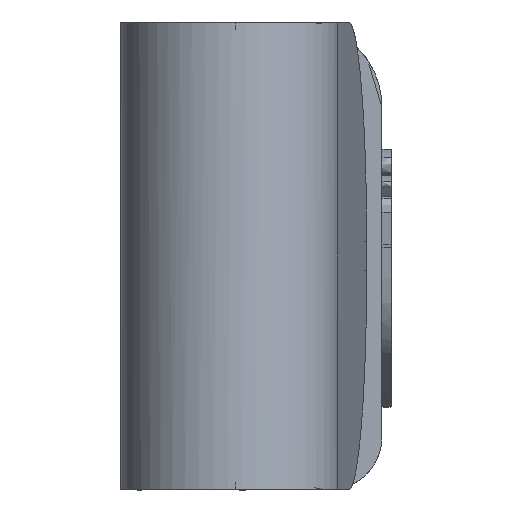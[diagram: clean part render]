
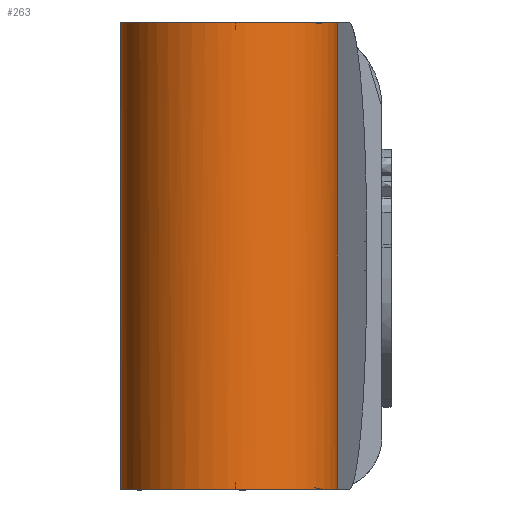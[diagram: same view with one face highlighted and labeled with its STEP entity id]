
A CAD part, left-side view. The second image highlights one B-rep face of the part: STEP entity #263.
In plain terms, the highlighted free-form (B-spline) face has degree [2, 1] with [9, 2] control points.
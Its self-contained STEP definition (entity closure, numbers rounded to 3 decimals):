
#263=ADVANCED_FACE('',(#834),#9871,.T.);
#834=FACE_OUTER_BOUND('',#1411,.T.);
#1411=EDGE_LOOP('',(#3096,#3097,#3098,#3099));
#3096=ORIENTED_EDGE('',*,*,#5794,.T.);
#3097=ORIENTED_EDGE('',*,*,#5620,.T.);
#3098=ORIENTED_EDGE('',*,*,#5795,.F.);
#3099=ORIENTED_EDGE('',*,*,#5290,.T.);
#5290=EDGE_CURVE('',#8639,#8637,#6902,.T.);
#5620=EDGE_CURVE('',#8887,#8888,#7202,.T.);
#5794=EDGE_CURVE('',#8637,#8887,#7295,.T.);
#5795=EDGE_CURVE('',#8639,#8888,#7296,.T.);
#6902=B_SPLINE_CURVE_WITH_KNOTS('',3,(#25502,#25503,#25504,#25505,#25506,
#25507,#25508,#25509,#25510,#25511,#25512,#25513,#25514,#25515,#25516,#25517),
 .UNSPECIFIED.,.F.,.F.,(4,2,2,2,2,2,2,4),(-0.012,-0.011,
-0.009,-0.007,-0.005,-0.004,
-0.002,0.),.UNSPECIFIED.);
#7202=B_SPLINE_CURVE_WITH_KNOTS('',3,(#26696,#26697,#26698,#26699,#26700,
#26701,#26702,#26703,#26704,#26705,#26706,#26707,#26708,#26709,#26710,#26711),
 .UNSPECIFIED.,.F.,.F.,(4,2,2,2,2,2,2,4),(-0.012,-0.01,
-0.009,-0.007,-0.005,-0.003,
-0.001,0.),.UNSPECIFIED.);
#7295=B_SPLINE_CURVE_WITH_KNOTS('',1,(#27816,#27817),.UNSPECIFIED.,.F.,
 .F.,(2,2),(0.,0.017),.UNSPECIFIED.);
#7296=B_SPLINE_CURVE_WITH_KNOTS('',1,(#27818,#27819),.UNSPECIFIED.,.F.,
 .F.,(2,2),(-0.017,0.),.UNSPECIFIED.);
#8637=VERTEX_POINT('',#23540);
#8639=VERTEX_POINT('',#23542);
#8887=VERTEX_POINT('',#23790);
#8888=VERTEX_POINT('',#23791);
#9871=(
BOUNDED_SURFACE()
B_SPLINE_SURFACE(2,1,((#16724,#16725),(#16726,#16727),(#16728,#16729),(#16730,
#16731),(#16732,#16733),(#16734,#16735),(#16736,#16737),(#16738,#16739),
(#16740,#16741)),.UNSPECIFIED.,.T.,.F.,.F.)
B_SPLINE_SURFACE_WITH_KNOTS((3,2,2,2,3),(2,2),(0.,0.006,0.012,
0.019,0.025),(0.,0.02),
 .UNSPECIFIED.)
GEOMETRIC_REPRESENTATION_ITEM()
RATIONAL_B_SPLINE_SURFACE(((1.,1.),(0.707,0.707),
(1.,1.),(0.707,0.707),(1.,1.),(0.707,
0.707),(1.,1.),(0.707,0.707),(1.,1.)))
REPRESENTATION_ITEM('')
SURFACE()
);
#16724=CARTESIAN_POINT('',(-166.058,-7.862,10.052));
#16725=CARTESIAN_POINT('',(-166.058,-7.862,-10.314));
#16726=CARTESIAN_POINT('',(-166.058,-11.805,10.052));
#16727=CARTESIAN_POINT('',(-166.058,-11.805,-10.314));
#16728=CARTESIAN_POINT('',(-170.,-11.805,10.052));
#16729=CARTESIAN_POINT('',(-170.,-11.805,-10.314));
#16730=CARTESIAN_POINT('',(-173.942,-11.805,10.052));
#16731=CARTESIAN_POINT('',(-173.942,-11.805,-10.314));
#16732=CARTESIAN_POINT('',(-173.942,-7.862,10.052));
#16733=CARTESIAN_POINT('',(-173.942,-7.862,-10.314));
#16734=CARTESIAN_POINT('',(-173.942,-3.92,10.052));
#16735=CARTESIAN_POINT('',(-173.942,-3.92,-10.314));
#16736=CARTESIAN_POINT('',(-170.,-3.92,10.052));
#16737=CARTESIAN_POINT('',(-170.,-3.92,-10.314));
#16738=CARTESIAN_POINT('',(-166.058,-3.92,10.052));
#16739=CARTESIAN_POINT('',(-166.058,-3.92,-10.314));
#16740=CARTESIAN_POINT('',(-166.058,-7.862,10.052));
#16741=CARTESIAN_POINT('',(-166.058,-7.862,-10.314));
#23540=CARTESIAN_POINT('',(-170.,-3.92,8.339));
#23542=CARTESIAN_POINT('',(-170.404,-11.784,8.345));
#23790=CARTESIAN_POINT('',(-170.,-3.92,-8.604));
#23791=CARTESIAN_POINT('',(-170.404,-11.784,-8.607));
#25502=CARTESIAN_POINT('',(-170.404,-11.784,8.345));
#25503=CARTESIAN_POINT('',(-170.861,-11.736,8.344));
#25504=CARTESIAN_POINT('',(-171.309,-11.609,8.344));
#25505=CARTESIAN_POINT('',(-172.252,-11.151,8.344));
#25506=CARTESIAN_POINT('',(-172.723,-10.774,8.343));
#25507=CARTESIAN_POINT('',(-173.455,-9.851,8.343));
#25508=CARTESIAN_POINT('',(-173.715,-9.306,8.342));
#25509=CARTESIAN_POINT('',(-173.975,-8.157,8.342));
#25510=CARTESIAN_POINT('',(-173.974,-7.553,8.342));
#25511=CARTESIAN_POINT('',(-173.71,-6.405,8.341));
#25512=CARTESIAN_POINT('',(-173.447,-5.861,8.341));
#25513=CARTESIAN_POINT('',(-172.712,-4.941,8.34));
#25514=CARTESIAN_POINT('',(-172.239,-4.565,8.34));
#25515=CARTESIAN_POINT('',(-171.177,-4.054,8.339));
#25516=CARTESIAN_POINT('',(-170.59,-3.92,8.339));
#25517=CARTESIAN_POINT('',(-170.,-3.92,8.339));
#26696=CARTESIAN_POINT('',(-170.,-3.92,-8.604));
#26697=CARTESIAN_POINT('',(-170.59,-3.92,-8.604));
#26698=CARTESIAN_POINT('',(-171.177,-4.054,-8.605));
#26699=CARTESIAN_POINT('',(-172.239,-4.565,-8.605));
#26700=CARTESIAN_POINT('',(-172.712,-4.941,-8.605));
#26701=CARTESIAN_POINT('',(-173.447,-5.861,-8.605));
#26702=CARTESIAN_POINT('',(-173.71,-6.405,-8.606));
#26703=CARTESIAN_POINT('',(-173.974,-7.553,-8.606));
#26704=CARTESIAN_POINT('',(-173.975,-8.157,-8.606));
#26705=CARTESIAN_POINT('',(-173.715,-9.306,-8.606));
#26706=CARTESIAN_POINT('',(-173.455,-9.851,-8.606));
#26707=CARTESIAN_POINT('',(-172.723,-10.774,-8.606));
#26708=CARTESIAN_POINT('',(-172.252,-11.151,-8.606));
#26709=CARTESIAN_POINT('',(-171.309,-11.609,-8.607));
#26710=CARTESIAN_POINT('',(-170.861,-11.736,-8.607));
#26711=CARTESIAN_POINT('',(-170.404,-11.784,-8.607));
#27816=CARTESIAN_POINT('',(-170.,-3.92,8.339));
#27817=CARTESIAN_POINT('',(-170.,-3.92,-8.604));
#27818=CARTESIAN_POINT('',(-170.404,-11.784,8.345));
#27819=CARTESIAN_POINT('',(-170.404,-11.784,-8.607));
